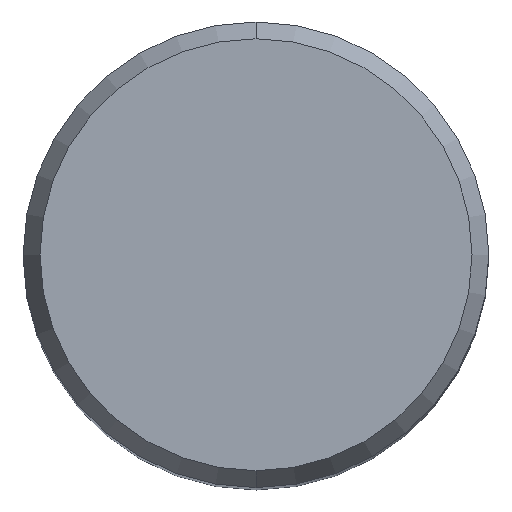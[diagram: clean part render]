
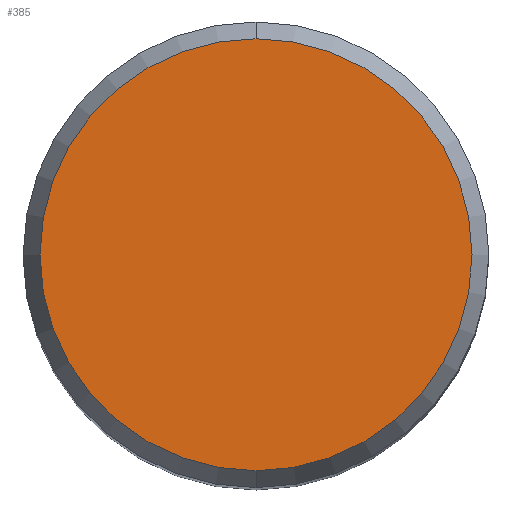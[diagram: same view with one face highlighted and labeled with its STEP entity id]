
A CAD part, top view. The second image highlights one B-rep face of the part: STEP entity #385.
In plain terms, the highlighted planar face has unit normal (0, 0, 1).
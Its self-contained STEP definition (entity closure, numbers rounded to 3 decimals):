
#247=EDGE_CURVE('',#257,#381,#547,.T.);
#257=VERTEX_POINT('',#557);
#305=EDGE_CURVE('',#381,#257,#609,.T.);
#381=VERTEX_POINT('',#693);
#385=ADVANCED_FACE('',(#698),#699,.T.);
#547=CIRCLE('',#951,7.423);
#557=CARTESIAN_POINT('',(0.0,7.423,0.0));
#609=CIRCLE('',#1155,7.423);
#693=CARTESIAN_POINT('',(0.,-7.423,0.0));
#698=FACE_OUTER_BOUND('',#1305,.T.);
#699=PLANE('',#1306);
#951=AXIS2_PLACEMENT_3D('',#1543,#1544,#1545);
#1155=AXIS2_PLACEMENT_3D('',#1607,#1608,#1609);
#1305=EDGE_LOOP('',(#1715,#1716));
#1306=AXIS2_PLACEMENT_3D('',#1717,#1718,#1719);
#1543=CARTESIAN_POINT('',(0.0,0.0,0.0));
#1544=DIRECTION('',(0.0,0.0,-1.0));
#1545=DIRECTION('',(0.0,1.0,0.0));
#1607=CARTESIAN_POINT('',(0.0,0.0,0.0));
#1608=DIRECTION('',(0.0,0.0,-1.0));
#1609=DIRECTION('',(0.0,1.0,0.0));
#1715=ORIENTED_EDGE('',*,*,#247,.F.);
#1716=ORIENTED_EDGE('',*,*,#305,.F.);
#1717=CARTESIAN_POINT('',(0.0,3.711,0.0));
#1718=DIRECTION('',(-0.0,0.0,1.0));
#1719=DIRECTION('',(0.0,-1.0,0.0));
